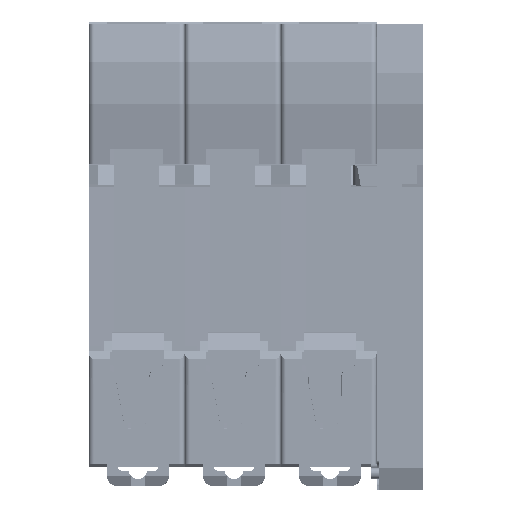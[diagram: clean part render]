
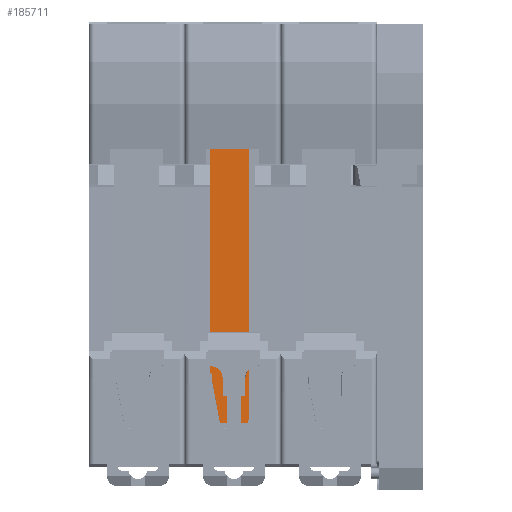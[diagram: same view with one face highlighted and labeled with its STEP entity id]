
A CAD part, front view. The second image highlights one B-rep face of the part: STEP entity #185711.
In plain terms, the highlighted planar face has unit normal (0, -1, 0).
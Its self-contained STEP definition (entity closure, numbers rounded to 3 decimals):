
#6601 = CARTESIAN_POINT ( 'NONE',  ( -45.018, -21.213, 6.139 ) ) ;
#8414 = LINE ( 'NONE', #6601, #240452 ) ;
#9380 = EDGE_CURVE ( 'NONE', #266571, #63516, #90691, .T. ) ;
#21462 = DIRECTION ( 'NONE',  ( 1., 0., 0. ) ) ;
#29461 = DIRECTION ( 'NONE',  ( -1., 0., 0. ) ) ;
#34656 = VECTOR ( 'NONE', #46912, 1000. ) ;
#35258 = VECTOR ( 'NONE', #74668, 1000. ) ;
#40700 = VERTEX_POINT ( 'NONE', #129836 ) ;
#43013 = EDGE_CURVE ( 'NONE', #61778, #40700, #121374, .T. ) ;
#43626 = EDGE_CURVE ( 'NONE', #266571, #123398, #8414, .T. ) ;
#46912 = DIRECTION ( 'NONE',  ( 0., 0., -1. ) ) ;
#47542 = CARTESIAN_POINT ( 'NONE',  ( -45.018, -21.213, 6.139 ) ) ;
#47909 = EDGE_LOOP ( 'NONE', ( #103785, #102339, #169664, #83166, #142512, #194185 ) ) ;
#54962 = LINE ( 'NONE', #115693, #64806 ) ;
#60958 = LINE ( 'NONE', #109903, #34656 ) ;
#61778 = VERTEX_POINT ( 'NONE', #77619 ) ;
#63516 = VERTEX_POINT ( 'NONE', #64752 ) ;
#64752 = CARTESIAN_POINT ( 'NONE',  ( -30.421, -21.213, 6.139 ) ) ;
#64806 = VECTOR ( 'NONE', #263945, 1000. ) ;
#74668 = DIRECTION ( 'NONE',  ( -1., 0., 0. ) ) ;
#77619 = CARTESIAN_POINT ( 'NONE',  ( -27.568, -21.213, -0.946 ) ) ;
#83166 = ORIENTED_EDGE ( 'NONE', *, *, #245215, .T. ) ;
#90691 = LINE ( 'NONE', #148291, #196704 ) ;
#91499 = DIRECTION ( 'NONE',  ( 0., 1., 0. ) ) ;
#93055 = CARTESIAN_POINT ( 'NONE',  ( -27.568, -21.213, 6.139 ) ) ;
#98650 = VECTOR ( 'NONE', #174427, 1000. ) ;
#102339 = ORIENTED_EDGE ( 'NONE', *, *, #43013, .F. ) ;
#103785 = ORIENTED_EDGE ( 'NONE', *, *, #153989, .F. ) ;
#109903 = CARTESIAN_POINT ( 'NONE',  ( -27.568, -21.213, 27.736 ) ) ;
#112763 = CARTESIAN_POINT ( 'NONE',  ( 54.287, -21.213, 27.736 ) ) ;
#115693 = CARTESIAN_POINT ( 'NONE',  ( -77.741, -21.213, -0.946 ) ) ;
#119493 = DIRECTION ( 'NONE',  ( -1., 0., 0. ) ) ;
#121374 = LINE ( 'NONE', #136772, #35258 ) ;
#123398 = VERTEX_POINT ( 'NONE', #193442 ) ;
#129836 = CARTESIAN_POINT ( 'NONE',  ( -77.741, -21.213, -0.946 ) ) ;
#130060 = EDGE_CURVE ( 'NONE', #234558, #61778, #60958, .T. ) ;
#136772 = CARTESIAN_POINT ( 'NONE',  ( 54.287, -21.213, -0.946 ) ) ;
#142512 = ORIENTED_EDGE ( 'NONE', *, *, #9380, .F. ) ;
#148291 = CARTESIAN_POINT ( 'NONE',  ( 54.287, -21.213, 6.139 ) ) ;
#148345 = FACE_OUTER_BOUND ( 'NONE', #47909, .T. ) ;
#153989 = EDGE_CURVE ( 'NONE', #40700, #123398, #54962, .T. ) ;
#169664 = ORIENTED_EDGE ( 'NONE', *, *, #130060, .F. ) ;
#172645 = AXIS2_PLACEMENT_3D ( 'NONE', #112763, #91499, #29461 ) ;
#174427 = DIRECTION ( 'NONE',  ( -1., 0., 0. ) ) ;
#185711 = ADVANCED_FACE ( 'NONE', ( #148345 ), #242423, .F. ) ;
#189708 = CARTESIAN_POINT ( 'NONE',  ( -34.483, -21.213, 6.139 ) ) ;
#193442 = CARTESIAN_POINT ( 'NONE',  ( -77.803, -21.213, 6.139 ) ) ;
#194185 = ORIENTED_EDGE ( 'NONE', *, *, #43626, .T. ) ;
#196704 = VECTOR ( 'NONE', #21462, 1000. ) ;
#234558 = VERTEX_POINT ( 'NONE', #93055 ) ;
#240452 = VECTOR ( 'NONE', #119493, 1000. ) ;
#242423 = PLANE ( 'NONE',  #172645 ) ;
#245215 = EDGE_CURVE ( 'NONE', #234558, #63516, #257576, .T. ) ;
#257576 = LINE ( 'NONE', #47542, #98650 ) ;
#263945 = DIRECTION ( 'NONE',  ( -0.009, 0., 1. ) ) ;
#266571 = VERTEX_POINT ( 'NONE', #189708 ) ;
